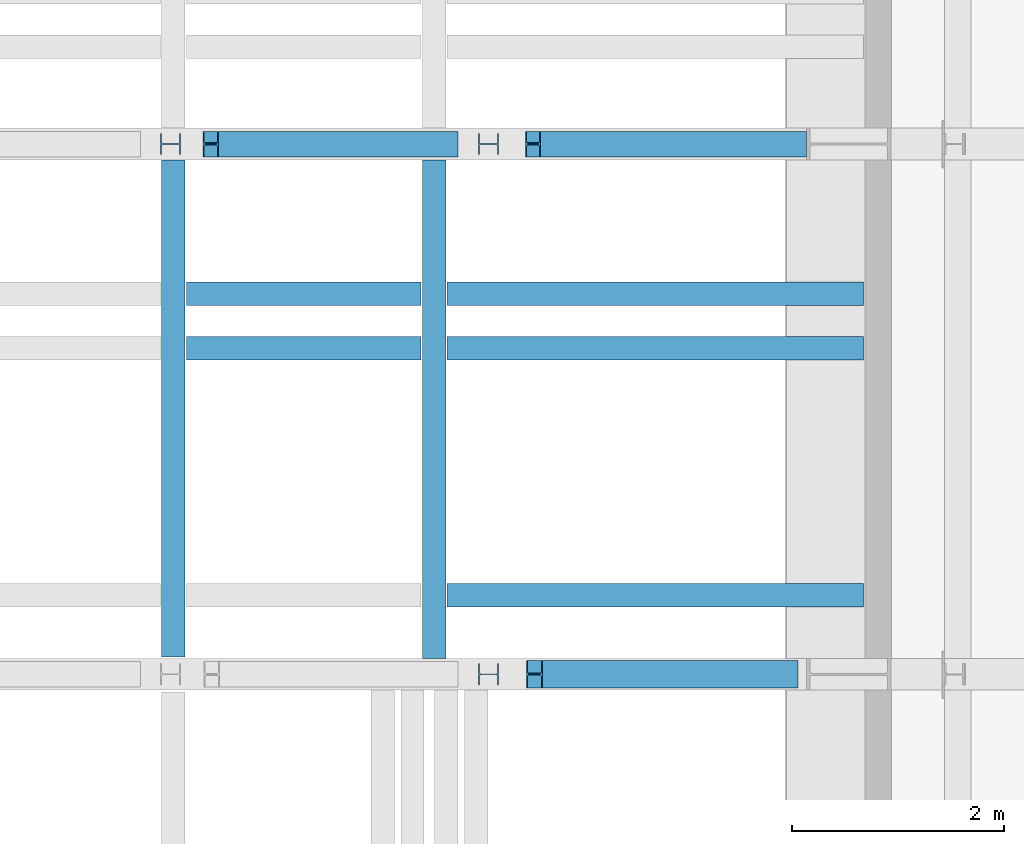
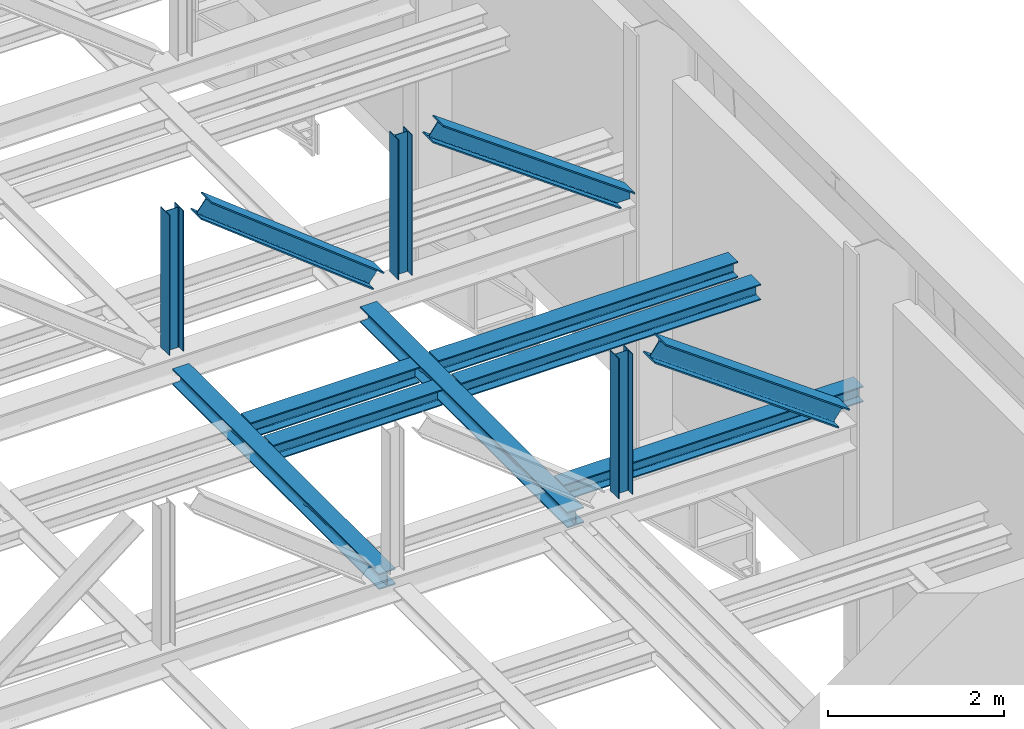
# One storey, part 13 of 29: 13 beams.
"""IFC2X3 building model written with IfcOpenShell, lengths in millimetres."""

import ifcopenshell
import ifcopenshell.guid

model = None  # the IFC model being written
_history = None  # IfcOwnerHistory: only IFC2X3 demands one
_inside = {}  # id of a spatial element -> (the spatial element, [elements in it])
_under = {}  # id of a project, library or spatial element -> (it, [spatial elements below it])
_declared = {}  # id of a project -> (the project, [libraries it declares])
_typed = {}  # id of a type object -> (the type object, [elements of that type])
_made_of = {}  # id of a material, layer set ... -> (it, [elements and type objects made of it])


def new_model(schema):
    """Start an empty IFC model of exactly this schema.

    Asked for "IFC4X3", IfcOpenShell would pick the latest addendum, in which some entities
    have other attributes; the version numbers below select the first issue.
    IFC2X3 requires an IfcOwnerHistory on every rooted entity: one is made here for all.
    """
    global model, _history
    if schema == "IFC4X3":
        model = ifcopenshell.file(schema_version=(4, 3, 0, 0))
    else:
        model = ifcopenshell.file(schema=schema)
    _inside.clear()
    _under.clear()
    _declared.clear()
    _typed.clear()
    _made_of.clear()
    _history = None
    if model.schema == "IFC2X3":
        org = make("IfcOrganization", Name="unknown")
        user = make(
            "IfcPersonAndOrganization",
            ThePerson=make("IfcPerson", FamilyName="unknown"),
            TheOrganization=org,
        )
        app = make(
            "IfcApplication",
            ApplicationDeveloper=org,
            Version="unknown",
            ApplicationFullName="unknown",
            ApplicationIdentifier="unknown",
        )
        _history = make(
            "IfcOwnerHistory",
            OwningUser=user,
            OwningApplication=app,
            ChangeAction="ADDED",
            CreationDate=0,
        )
    return model


def make(cls, **values):
    """One entity of the class cls with the attributes given. An attribute that is None is left unset."""
    return model.create_entity(
        cls, **{name: value for name, value in values.items() if value is not None}
    )


def entity(cls, *values):
    """Any entity or typed value of the class cls, its attributes in the order of the schema. None: left unset."""
    e = model.create_entity(cls)
    for i, value in enumerate(values):
        if value is not None:
            e[i] = value
    return e


def rooted(cls, **values):
    """An entity with a GlobalId (a new one), such as an element, a storey or a relation."""
    return make(cls, GlobalId=ifcopenshell.guid.new(), OwnerHistory=_history, **values)


def si_unit(unit_type, name, prefix=None):
    """IfcSIUnit, for example si_unit("LENGTHUNIT", "METRE", prefix="MILLI")."""
    return make("IfcSIUnit", UnitType=unit_type, Prefix=prefix, Name=name)


def converted_unit(unit_type, name, factor, base, dimensions=None, offset=None):
    """IfcConversionBasedUnit, such as the inch: factor (a typed value) times the base unit."""
    return make(
        "IfcConversionBasedUnit"
        if offset is None
        else "IfcConversionBasedUnitWithOffset",
        ConversionOffset=offset,
        Dimensions=None
        if dimensions is None
        else entity("IfcDimensionalExponents", *dimensions),
        UnitType=unit_type,
        Name=name,
        ConversionFactor=make(
            "IfcMeasureWithUnit", ValueComponent=factor, UnitComponent=base
        ),
    )


def derived_unit(unit_type, elements):
    """IfcDerivedUnit: a product of units, each with its exponent."""
    return make(
        "IfcDerivedUnit",
        Elements=[
            make("IfcDerivedUnitElement", Unit=unit, Exponent=power)
            for unit, power in elements
        ],
        UnitType=unit_type,
    )


def assignment(units):
    """IfcUnitAssignment: the units of a project."""
    return None if units is None else make("IfcUnitAssignment", Units=units)


def point(xyz):
    """IfcCartesianPoint."""
    return None if xyz is None else make("IfcCartesianPoint", Coordinates=xyz)


def direction(xyz):
    """IfcDirection."""
    return None if xyz is None else make("IfcDirection", DirectionRatios=xyz)


def frame(location, z_axis=None, x_axis=None):
    """IfcAxis2Placement3D, a coordinate frame: its origin and axes. An axis left out is left unset."""
    return make(
        "IfcAxis2Placement3D",
        Location=point(location),
        Axis=direction(z_axis),
        RefDirection=direction(x_axis),
    )


def frame_2d(location, x_axis=None):
    """IfcAxis2Placement2D, a coordinate frame in the plane: its origin and x axis."""
    return make(
        "IfcAxis2Placement2D", Location=point(location), RefDirection=direction(x_axis)
    )


def origin():
    """The frame at (0, 0, 0) with its axes left unset."""
    return frame((0.0, 0.0, 0.0))


def place(relative_to, where):
    """IfcLocalPlacement: puts the frame where relative to a parent placement (None: the world)."""
    return make(
        "IfcLocalPlacement", PlacementRelTo=relative_to, RelativePlacement=where
    )


def context(
    kind, dimensions, precision=None, world=None, true_north=None, identifier=None
):
    """IfcGeometricRepresentationContext, for example the 3D "Model" context."""
    return make(
        "IfcGeometricRepresentationContext",
        ContextIdentifier=identifier,
        ContextType=kind,
        CoordinateSpaceDimension=dimensions,
        Precision=precision,
        WorldCoordinateSystem=world,
        TrueNorth=true_north,
    )


def subcontext(parent, identifier, kind, view, scale=None):
    """IfcGeometricRepresentationSubContext, for example "Body" below "Model"."""
    return make(
        "IfcGeometricRepresentationSubContext",
        ContextIdentifier=identifier,
        ContextType=kind,
        ParentContext=parent,
        TargetScale=scale,
        TargetView=view,
    )


def project(units=None, contexts=None):
    """IfcProject with its units and contexts."""
    return rooted(
        "IfcProject",
        Name="project",
        RepresentationContexts=contexts,
        UnitsInContext=assignment(units),
    )


def spatial(cls, under=None, at=None, **own):
    """A site, building, storey or space (cls), placed at a placement, below another one or the project."""
    s = rooted(cls, ObjectPlacement=at, **own)
    if under is not None:
        _under.setdefault(under.id(), (under, []))[1].append(s)
    return s


def polyline(points):
    """IfcPolyline through the points."""
    return make("IfcPolyline", Points=[point(p) for p in points])


def circle_curve(where, radius):
    """IfcCircle in the frame where."""
    return make("IfcCircle", Position=where, Radius=radius)


def parameter(value):
    """IfcParameterValue: where a trimmed curve begins or ends, as a parameter of its basis curve."""
    return model.create_entity("IfcParameterValue", value)


def trimmed(basis, trim1, trim2, sense, master):
    """IfcTrimmedCurve: the piece of a basis curve between two trims."""
    return make(
        "IfcTrimmedCurve",
        BasisCurve=basis,
        Trim1=trim1,
        Trim2=trim2,
        SenseAgreement=sense,
        MasterRepresentation=master,
    )


def segment(curve, same_sense, transition):
    """IfcCompositeCurveSegment."""
    return make(
        "IfcCompositeCurveSegment",
        Transition=transition,
        SameSense=same_sense,
        ParentCurve=curve,
    )


def composite_curve(segments, self_intersect=None):
    """IfcCompositeCurve: segments joined end to end."""
    return make("IfcCompositeCurve", Segments=segments, SelfIntersect=self_intersect)


def profile(cls, at=None, kind="AREA", **sizes):
    """A parametric profile (cls). Its sizes go by their IFC names, for example OverallWidth=200.0."""
    return make(cls, ProfileType=kind, Position=at, **sizes)


def i_section(**sizes):
    """IfcIShapeProfileDef."""
    return profile("IfcIShapeProfileDef", **sizes)


def outline(outer, holes=None, kind="AREA"):
    """IfcArbitraryClosedProfileDef: a profile drawn as a closed curve; with holes, ...WithVoids."""
    if holes is None:
        return make("IfcArbitraryClosedProfileDef", ProfileType=kind, OuterCurve=outer)
    return make(
        "IfcArbitraryProfileDefWithVoids",
        ProfileType=kind,
        OuterCurve=outer,
        InnerCurves=holes,
    )


def extrude(swept, where, along, depth):
    """IfcExtrudedAreaSolid: the profile swept, set in the frame where, extruded along a direction by depth."""
    return make(
        "IfcExtrudedAreaSolid",
        SweptArea=swept,
        Position=where,
        ExtrudedDirection=direction(along),
        Depth=depth,
    )


def clip(a, b, op="DIFFERENCE"):
    """IfcBooleanClippingResult: the solid a cut by the half space b."""
    return make(
        "IfcBooleanClippingResult", Operator=op, FirstOperand=a, SecondOperand=b
    )


def bounded_halfspace(plane, agree, where, boundary):
    """IfcPolygonalBoundedHalfSpace: a half space limited to a polygon's prism."""
    return make(
        "IfcPolygonalBoundedHalfSpace",
        BaseSurface=make("IfcPlane", Position=plane),
        AgreementFlag=agree,
        Position=where,
        PolygonalBoundary=boundary,
    )


def shape(context_of_items, identifier, shape_type, items):
    """IfcShapeRepresentation: the items that make up one representation, for example the "Body"."""
    return make(
        "IfcShapeRepresentation",
        ContextOfItems=context_of_items,
        RepresentationIdentifier=identifier,
        RepresentationType=shape_type,
        Items=items,
    )


def material(Name=None, Category=None):
    """IfcMaterial."""
    return make("IfcMaterial", Name=Name, Category=Category)


def made_of(thing, what):
    """Note that an element or type object is made of a material, layer set ...; save() writes the relation."""
    if what is not None:
        _made_of.setdefault(what.id(), (what, []))[1].append(thing)
    return thing


def type_object(cls, material=None, **own):
    """A type object (cls), such as IfcWallType, which elements share."""
    return made_of(rooted(cls, **own), material)


def element(
    cls,
    number,
    at=None,
    inside=None,
    cuts=None,
    type_object=None,
    material=None,
    context=None,
    identifier="Body",
    shape_type=None,
    held_by="IfcProductDefinitionShape",
    body=None,
    shapes=None,
    **own,
):
    """One element of the class cls, such as IfcWall. Its Tag is "e" and its number.

    at: its placement. inside: the storey or other place that contains it. cuts: it is an
    opening in that element (IfcRelVoidsElement). A single representation is given by context,
    identifier, shape_type and body (its items); several are given by shapes. held_by: the class
    of the entity that holds the representations. save() writes the other relations.
    """
    e = rooted(cls, Tag="e%d" % number, ObjectPlacement=at, **own)
    if body is not None:
        shapes = [shape(context, identifier, shape_type, body)]
    if shapes is not None:
        e.Representation = make(held_by, Representations=shapes)
    if inside is not None:
        _inside.setdefault(inside.id(), (inside, []))[1].append(e)
    if cuts is not None:
        rooted(
            "IfcRelVoidsElement", RelatingBuildingElement=cuts, RelatedOpeningElement=e
        )
    if type_object is not None:
        _typed.setdefault(type_object.id(), (type_object, []))[1].append(e)
    return made_of(e, material)


def aggregate(whole, parts):
    """IfcRelAggregates: a whole, such as a stair, and the parts it consists of."""
    return rooted("IfcRelAggregates", RelatingObject=whole, RelatedObjects=parts)


def save(model, path):
    """Write the relations noted so far, then the file.

    IfcRelAggregates (storeys below a building ...), IfcRelContainedInSpatialStructure (elements
    in a storey), IfcRelDefinesByType, IfcRelAssociatesMaterial and IfcRelDeclares: one each for
    every whole, place, type object, material and project.
    """
    for whole, parts in _under.values():
        aggregate(whole, parts)
    for where, things in _inside.values():
        rooted(
            "IfcRelContainedInSpatialStructure",
            RelatedElements=things,
            RelatingStructure=where,
        )
    for kind, things in _typed.values():
        rooted("IfcRelDefinesByType", RelatedObjects=things, RelatingType=kind)
    for what, things in _made_of.values():
        rooted("IfcRelAssociatesMaterial", RelatedObjects=things, RelatingMaterial=what)
    for by, libraries in _declared.values():
        rooted("IfcRelDeclares", RelatingContext=by, RelatedDefinitions=libraries)
    model.write(path)


model = new_model("IFC2X3")

# Units and contexts
model_context = context("Model", 3, precision=0.01, world=origin(), true_north=direction((6.12303176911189e-17, 1.0)))
body_context = subcontext(model_context, "Body", "Model", "MODEL_VIEW")
ifc_project = project(units=[si_unit("LENGTHUNIT", "METRE", prefix="MILLI"), si_unit("AREAUNIT", "SQUARE_METRE", prefix="MILLI"), si_unit("VOLUMEUNIT", "CUBIC_METRE"), converted_unit("PLANEANGLEUNIT", "DEGREE", entity("IfcRatioMeasure", 0.0174532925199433), si_unit("PLANEANGLEUNIT", "RADIAN"), dimensions=[0, 0, 0, 0, 0, 0, 0]), si_unit("MASSUNIT", "GRAM", prefix="KILO"), derived_unit("MASSDENSITYUNIT", [(si_unit("MASSUNIT", "GRAM", prefix="KILO"), 1), (si_unit("LENGTHUNIT", "METRE"), -3)]), derived_unit("MOMENTOFINERTIAUNIT", [(si_unit("LENGTHUNIT", "METRE"), 4)]), si_unit("TIMEUNIT", "SECOND"), si_unit("FREQUENCYUNIT", "HERTZ"), si_unit("THERMODYNAMICTEMPERATUREUNIT", "DEGREE_CELSIUS"), derived_unit("THERMALTRANSMITTANCEUNIT", [(si_unit("MASSUNIT", "GRAM", prefix="KILO"), 1), (si_unit("THERMODYNAMICTEMPERATUREUNIT", "KELVIN"), -1), (si_unit("TIMEUNIT", "SECOND"), -3)]), derived_unit("VOLUMETRICFLOWRATEUNIT", [(si_unit("LENGTHUNIT", "METRE"), 3), (si_unit("TIMEUNIT", "SECOND"), -1)]), si_unit("ELECTRICCURRENTUNIT", "AMPERE"), si_unit("ELECTRICVOLTAGEUNIT", "VOLT"), si_unit("POWERUNIT", "WATT"), si_unit("FORCEUNIT", "NEWTON", prefix="KILO"), si_unit("ILLUMINANCEUNIT", "LUX"), si_unit("LUMINOUSFLUXUNIT", "LUMEN"), si_unit("LUMINOUSINTENSITYUNIT", "CANDELA"), derived_unit("USERDEFINED", [(si_unit("MASSUNIT", "GRAM", prefix="KILO"), -1), (si_unit("LENGTHUNIT", "METRE"), -2), (si_unit("TIMEUNIT", "SECOND"), 3), (si_unit("LUMINOUSFLUXUNIT", "LUMEN"), 1)]), derived_unit("LINEARVELOCITYUNIT", [(si_unit("LENGTHUNIT", "METRE"), 1), (si_unit("TIMEUNIT", "SECOND"), -1)]), si_unit("PRESSUREUNIT", "PASCAL"), derived_unit("USERDEFINED", [(si_unit("LENGTHUNIT", "METRE"), -2), (si_unit("MASSUNIT", "GRAM", prefix="KILO"), 1), (si_unit("TIMEUNIT", "SECOND"), -2)]), derived_unit("LINEARFORCEUNIT", [(si_unit("MASSUNIT", "GRAM", prefix="KILO"), 1), (si_unit("LENGTHUNIT", "METRE"), 1), (si_unit("TIMEUNIT", "SECOND"), -2), (si_unit("LENGTHUNIT", "METRE"), -1)]), derived_unit("PLANARFORCEUNIT", [(si_unit("MASSUNIT", "GRAM", prefix="KILO"), 1), (si_unit("LENGTHUNIT", "METRE"), 1), (si_unit("TIMEUNIT", "SECOND"), -2), (si_unit("LENGTHUNIT", "METRE"), -2)])], contexts=[model_context])

# Site, building, storey
site_placement = place(None, origin())
site = spatial("IfcSite", under=ifc_project, at=site_placement, Name="Theater aan de Parade", CompositionType="ELEMENT")
building_placement = place(site_placement, origin())
building = spatial("IfcBuilding", under=site, at=building_placement, Name="Theater aan de Parade", CompositionType="ELEMENT")
storey_placement = place(building_placement, frame((0.0, 0.0, 20300.0)))
storey = spatial("IfcBuildingStorey", under=building, at=storey_placement, Name="05 vijfde verdieping", CompositionType="ELEMENT", Elevation=20300.0)

# Beams
ifc_material = material(Name="00_PBT_MAT_staal_S355")
beam_type_1 = type_object("IfcBeamType", Name="28_PBT_SF_staal_H-profiel:S355_HE220B", PredefinedType="NOTDEFINED")
beam_1_placement = place(storey_placement, frame((79535.461881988, 29760.0, 0.0), z_axis=(0.0, 0.0, 1.0), x_axis=(0.0, -1.0, 0.0)))
element("IfcBeam", 1, at=beam_1_placement, inside=storey, type_object=beam_type_1, material=ifc_material, Name="28_PBT_SF_staal_H-profiel:S355_HE220B", ObjectType="28_PBT_SF_staal_H-profiel:S355_HE220B", context=body_context, shape_type="SweptSolid", body=[
    extrude(i_section(OverallWidth=220.000000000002, OverallDepth=220.000000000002, WebThickness=9.49999999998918, FlangeThickness=15.9999999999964, FilletRadius=17.9999999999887, at=frame_2d((-4.33431068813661e-12, 8.66862137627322e-12), x_axis=(0.0, 1.0))), frame((0.0, 0.0, 2360.0), z_axis=(1.0, 0.0, 0.0), x_axis=(0.0, 0.0, -1.0)), (0.0, 0.0, 1.0), 4685.0000000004),
])
beam_2_placement = place(storey_placement, frame((81995.0, 29760.0, 0.0), z_axis=(0.0, 0.0, 1.0), x_axis=(0.0, -1.0, 0.0)))
element("IfcBeam", 2, at=beam_2_placement, inside=storey, type_object=beam_type_1, material=ifc_material, Name="28_PBT_SF_staal_H-profiel:S355_HE220B", ObjectType="28_PBT_SF_staal_H-profiel:S355_HE220B", context=body_context, shape_type="SweptSolid", body=[
    extrude(i_section(OverallWidth=220.000000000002, OverallDepth=220.000000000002, WebThickness=9.49999999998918, FlangeThickness=15.9999999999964, FilletRadius=17.9999999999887, at=frame_2d((-4.33431068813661e-12, -2.59916532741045e-11), x_axis=(0.0, 1.0))), frame((0.0, 0.0, 2360.0), z_axis=(1.0, 0.0, 0.0), x_axis=(0.0, 0.0, -1.0)), (0.0, 0.0, 1.0), 4700.00000000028),
])
beam_3_placement = place(storey_placement, frame((81995.0, 28497.5, 0.0), z_axis=(0.0, 0.0, 1.0), x_axis=(-1.0, 0.0, 0.0)))
element("IfcBeam", 3, at=beam_3_placement, inside=storey, type_object=beam_type_1, material=ifc_material, Name="28_PBT_SF_staal_H-profiel:S355_HE220B", ObjectType="28_PBT_SF_staal_H-profiel:S355_HE220B", context=body_context, shape_type="SweptSolid", body=[
    extrude(outline(composite_curve([segment(polyline([(94.0, -110.0), (110.0, -110.0)]), True, "CONTINUOUS"), segment(polyline([(110.0, -110.0), (110.0, 110.0)]), True, "CONTINUOUS"), segment(polyline([(110.0, 110.0), (94.0, 110.0)]), True, "CONTINUOUS"), segment(polyline([(94.0, 110.0), (94.0, 22.7500000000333)]), True, "CONTINUOUS"), segment(trimmed(circle_curve(frame_2d((76.0, 22.7500000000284), x_axis=(1.0, 0.0)), 18.0000000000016), [parameter(270.0)], [parameter(0.0)], True, "PARAMETER"), False, "CONTINUOUS"), segment(polyline([(76.0, 4.75000000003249), (-76.0, 4.74999999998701)]), True, "CONTINUOUS"), segment(trimmed(circle_curve(frame_2d((-76.0, 22.7499999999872), x_axis=(0.0, -1.0)), 18.0000000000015), [parameter(270.0)], [parameter(0.0)], True, "PARAMETER"), False, "CONTINUOUS"), segment(polyline([(-94.0, 22.7499999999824), (-94.0, 110.0)]), True, "CONTINUOUS"), segment(polyline([(-94.0, 110.0), (-110.0, 110.0)]), True, "CONTINUOUS"), segment(polyline([(-110.0, 110.0), (-110.0, -110.0)]), True, "CONTINUOUS"), segment(polyline([(-110.0, -110.0), (-94.0, -110.0)]), True, "CONTINUOUS"), segment(polyline([(-94.0, -110.0), (-94.0, -22.7500000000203)]), True, "CONTINUOUS"), segment(trimmed(circle_curve(frame_2d((-76.0, -22.7500000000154), x_axis=(-1.0, 0.0)), 17.9999999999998), [parameter(270.0)], [parameter(0.0)], True, "PARAMETER"), False, "CONTINUOUS"), segment(polyline([(-76.0, -4.75000000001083), (76.0, -4.74999999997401)]), True, "CONTINUOUS"), segment(trimmed(circle_curve(frame_2d((76.0, -22.7499999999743), x_axis=(0.0, 1.0)), 18.0000000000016), [parameter(270.0)], [parameter(0.0)], True, "PARAMETER"), False, "CONTINUOUS"), segment(polyline([(94.0, -22.749999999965), (94.0, -110.0)]), True, "CONTINUOUS")], self_intersect=False)), frame((122.699999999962, 0.0, 2360.0), z_axis=(1.0, 0.0, 0.0), x_axis=(0.0, 0.0, -1.0)), (0.0, 0.0, 1.0), 2214.13811801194),
])
beam_4_placement = place(storey_placement, frame((86180.0, 28497.5, 0.0), z_axis=(0.0, 0.0, 1.0), x_axis=(-1.0, 0.0, 0.0)))
element("IfcBeam", 4, at=beam_4_placement, inside=storey, type_object=beam_type_1, material=ifc_material, Name="28_PBT_SF_staal_H-profiel:S355_HE220B", ObjectType="28_PBT_SF_staal_H-profiel:S355_HE220B", context=body_context, shape_type="SweptSolid", body=[
    extrude(outline(composite_curve([segment(polyline([(94.0, -110.0), (110.0, -110.0)]), True, "CONTINUOUS"), segment(polyline([(110.0, -110.0), (110.0, 110.0)]), True, "CONTINUOUS"), segment(polyline([(110.0, 110.0), (94.0, 110.0)]), True, "CONTINUOUS"), segment(polyline([(94.0, 110.0), (94.0, 22.7500000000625)]), True, "CONTINUOUS"), segment(trimmed(circle_curve(frame_2d((76.0, 22.7500000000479), x_axis=(1.0, 0.0)), 18.0000000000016), [parameter(270.0)], [parameter(0.0)], True, "PARAMETER"), False, "CONTINUOUS"), segment(polyline([(76.0, 4.75000000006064), (-76.0, 4.7499999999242)]), True, "CONTINUOUS"), segment(trimmed(circle_curve(frame_2d((-76.0, 22.7499999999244), x_axis=(0.0, -1.0)), 18.0000000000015), [parameter(270.0)], [parameter(0.0)], True, "PARAMETER"), False, "CONTINUOUS"), segment(polyline([(-94.0, 22.7499999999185), (-94.0, 110.0)]), True, "CONTINUOUS"), segment(polyline([(-94.0, 110.0), (-110.0, 110.0)]), True, "CONTINUOUS"), segment(polyline([(-110.0, 110.0), (-110.0, -110.0)]), True, "CONTINUOUS"), segment(polyline([(-110.0, -110.0), (-94.0, -110.0)]), True, "CONTINUOUS"), segment(polyline([(-94.0, -110.0), (-94.0, -22.7500000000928)]), True, "CONTINUOUS"), segment(trimmed(circle_curve(frame_2d((-76.0, -22.7500000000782), x_axis=(-1.0, 0.0)), 17.9999999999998), [parameter(270.0)], [parameter(0.0)], True, "PARAMETER"), False, "CONTINUOUS"), segment(polyline([(-76.0, -4.75000000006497), (76.0, -4.74999999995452)]), True, "CONTINUOUS"), segment(trimmed(circle_curve(frame_2d((76.0, -22.7499999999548), x_axis=(0.0, 1.0)), 18.0000000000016), [parameter(270.0)], [parameter(0.0)], True, "PARAMETER"), False, "CONTINUOUS"), segment(polyline([(94.0, -22.7499999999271), (94.0, -110.0)]), True, "CONTINUOUS")], self_intersect=False)), frame((137.699999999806, 0.0, 2360.0), z_axis=(1.0, 0.0, 0.0), x_axis=(0.0, 0.0, -1.0)), (0.0, 0.0, 1.0), 3924.60000000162),
])
beam_5_placement = place(storey_placement, frame((81995.0, 27983.4998, 0.0), z_axis=(0.0, 0.0, 1.0), x_axis=(-1.0, 0.0, 0.0)))
element("IfcBeam", 5, at=beam_5_placement, inside=storey, type_object=beam_type_1, material=ifc_material, Name="28_PBT_SF_staal_H-profiel:S355_HE220B", ObjectType="28_PBT_SF_staal_H-profiel:S355_HE220B", context=body_context, shape_type="SweptSolid", body=[
    extrude(outline(composite_curve([segment(polyline([(94.0, -110.0), (110.0, -110.0)]), True, "CONTINUOUS"), segment(polyline([(110.0, -110.0), (110.0, 110.0)]), True, "CONTINUOUS"), segment(polyline([(110.0, 110.0), (94.0, 110.0)]), True, "CONTINUOUS"), segment(polyline([(94.0, 110.0), (94.0, 22.7500000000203)]), True, "CONTINUOUS"), segment(trimmed(circle_curve(frame_2d((76.0, 22.7500000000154), x_axis=(1.0, 0.0)), 18.0000000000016), [parameter(270.0)], [parameter(0.0)], True, "PARAMETER"), False, "CONTINUOUS"), segment(polyline([(76.0, 4.75000000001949), (-76.0, 4.74999999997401)]), True, "CONTINUOUS"), segment(trimmed(circle_curve(frame_2d((-76.0, 22.7499999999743), x_axis=(0.0, -1.0)), 18.0000000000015), [parameter(270.0)], [parameter(0.0)], True, "PARAMETER"), False, "CONTINUOUS"), segment(polyline([(-94.0, 22.7499999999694), (-94.0, 110.0)]), True, "CONTINUOUS"), segment(polyline([(-94.0, 110.0), (-110.0, 110.0)]), True, "CONTINUOUS"), segment(polyline([(-110.0, 110.0), (-110.0, -110.0)]), True, "CONTINUOUS"), segment(polyline([(-110.0, -110.0), (-94.0, -110.0)]), True, "CONTINUOUS"), segment(polyline([(-94.0, -110.0), (-94.0, -22.7500000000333)]), True, "CONTINUOUS"), segment(trimmed(circle_curve(frame_2d((-76.0, -22.7500000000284), x_axis=(-1.0, 0.0)), 17.9999999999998), [parameter(270.0)], [parameter(0.0)], True, "PARAMETER"), False, "CONTINUOUS"), segment(polyline([(-76.0, -4.75000000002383), (76.0, -4.74999999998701)]), True, "CONTINUOUS"), segment(trimmed(circle_curve(frame_2d((76.0, -22.7499999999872), x_axis=(0.0, 1.0)), 18.0000000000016), [parameter(270.0)], [parameter(0.0)], True, "PARAMETER"), False, "CONTINUOUS"), segment(polyline([(94.0, -22.749999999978), (94.0, -110.0)]), True, "CONTINUOUS")], self_intersect=False)), frame((122.699999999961, 0.0, 2360.0), z_axis=(1.0, 0.0, 0.0), x_axis=(0.0, 0.0, -1.0)), (0.0, 0.0, 1.0), 2214.13811801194),
])
beam_6_placement = place(storey_placement, frame((86180.0, 27983.4998, 0.0), z_axis=(0.0, 0.0, 1.0), x_axis=(-1.0, 0.0, 0.0)))
element("IfcBeam", 6, at=beam_6_placement, inside=storey, type_object=beam_type_1, material=ifc_material, Name="28_PBT_SF_staal_H-profiel:S355_HE220B", ObjectType="28_PBT_SF_staal_H-profiel:S355_HE220B", context=body_context, shape_type="SweptSolid", body=[
    extrude(outline(composite_curve([segment(polyline([(94.0, -110.0), (110.0, -110.0)]), True, "CONTINUOUS"), segment(polyline([(110.0, -110.0), (110.0, 110.0)]), True, "CONTINUOUS"), segment(polyline([(110.0, 110.0), (94.0, 110.0)]), True, "CONTINUOUS"), segment(polyline([(94.0, 110.0), (94.0, 22.7500000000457)]), True, "CONTINUOUS"), segment(trimmed(circle_curve(frame_2d((76.0, 22.750000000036), x_axis=(1.0, 0.0)), 18.0000000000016), [parameter(270.0)], [parameter(0.0)], True, "PARAMETER"), False, "CONTINUOUS"), segment(polyline([(76.0, 4.7500000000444), (-76.0, 4.74999999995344)]), True, "CONTINUOUS"), segment(trimmed(circle_curve(frame_2d((-76.0, 22.7499999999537), x_axis=(0.0, -1.0)), 18.0000000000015), [parameter(270.0)], [parameter(0.0)], True, "PARAMETER"), False, "CONTINUOUS"), segment(polyline([(-94.0, 22.7499999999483), (-94.0, 110.0)]), True, "CONTINUOUS"), segment(polyline([(-94.0, 110.0), (-110.0, 110.0)]), True, "CONTINUOUS"), segment(polyline([(-110.0, 110.0), (-110.0, -110.0)]), True, "CONTINUOUS"), segment(polyline([(-110.0, -110.0), (-94.0, -110.0)]), True, "CONTINUOUS"), segment(polyline([(-94.0, -110.0), (-94.0, -22.7500000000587)]), True, "CONTINUOUS"), segment(trimmed(circle_curve(frame_2d((-76.0, -22.750000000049), x_axis=(-1.0, 0.0)), 17.9999999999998), [parameter(270.0)], [parameter(0.0)], True, "PARAMETER"), False, "CONTINUOUS"), segment(polyline([(-76.0, -4.75000000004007), (76.0, -4.74999999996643)]), True, "CONTINUOUS"), segment(trimmed(circle_curve(frame_2d((76.0, -22.7499999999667), x_axis=(0.0, 1.0)), 18.0000000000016), [parameter(270.0)], [parameter(0.0)], True, "PARAMETER"), False, "CONTINUOUS"), segment(polyline([(94.0, -22.7499999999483), (94.0, -110.0)]), True, "CONTINUOUS")], self_intersect=False)), frame((137.699999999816, 0.0, 2360.0), z_axis=(1.0, 0.0, 0.0), x_axis=(0.0, 0.0, -1.0)), (0.0, 0.0, 1.0), 3924.60000000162),
])
beam_7_placement = place(storey_placement, frame((86180.0, 25654.5, 0.0), z_axis=(0.0, 0.0, 1.0), x_axis=(-1.0, 0.0, 0.0)))
element("IfcBeam", 7, at=beam_7_placement, inside=storey, type_object=beam_type_1, material=ifc_material, Name="28_PBT_SF_staal_H-profiel:S355_HE220B", ObjectType="28_PBT_SF_staal_H-profiel:S355_HE220B", context=body_context, shape_type="SweptSolid", body=[
    extrude(outline(composite_curve([segment(polyline([(94.0, -110.0), (110.0, -110.0)]), True, "CONTINUOUS"), segment(polyline([(110.0, -110.0), (110.0, 110.0)]), True, "CONTINUOUS"), segment(polyline([(110.0, 110.0), (94.0, 110.0)]), True, "CONTINUOUS"), segment(polyline([(94.0, 110.0), (94.0, 22.7500000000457)]), True, "CONTINUOUS"), segment(trimmed(circle_curve(frame_2d((76.0, 22.750000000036), x_axis=(1.0, 0.0)), 18.0000000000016), [parameter(270.0)], [parameter(0.0)], True, "PARAMETER"), False, "CONTINUOUS"), segment(polyline([(76.0, 4.7500000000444), (-76.0, 4.74999999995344)]), True, "CONTINUOUS"), segment(trimmed(circle_curve(frame_2d((-76.0, 22.7499999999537), x_axis=(0.0, -1.0)), 18.0000000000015), [parameter(270.0)], [parameter(0.0)], True, "PARAMETER"), False, "CONTINUOUS"), segment(polyline([(-94.0, 22.7499999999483), (-94.0, 110.0)]), True, "CONTINUOUS"), segment(polyline([(-94.0, 110.0), (-110.0, 110.0)]), True, "CONTINUOUS"), segment(polyline([(-110.0, 110.0), (-110.0, -110.0)]), True, "CONTINUOUS"), segment(polyline([(-110.0, -110.0), (-94.0, -110.0)]), True, "CONTINUOUS"), segment(polyline([(-94.0, -110.0), (-94.0, -22.7500000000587)]), True, "CONTINUOUS"), segment(trimmed(circle_curve(frame_2d((-76.0, -22.750000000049), x_axis=(-1.0, 0.0)), 17.9999999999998), [parameter(270.0)], [parameter(0.0)], True, "PARAMETER"), False, "CONTINUOUS"), segment(polyline([(-76.0, -4.75000000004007), (76.0, -4.74999999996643)]), True, "CONTINUOUS"), segment(trimmed(circle_curve(frame_2d((76.0, -22.7499999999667), x_axis=(0.0, 1.0)), 18.0000000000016), [parameter(270.0)], [parameter(0.0)], True, "PARAMETER"), False, "CONTINUOUS"), segment(polyline([(94.0, -22.7499999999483), (94.0, -110.0)]), True, "CONTINUOUS")], self_intersect=False)), frame((137.699999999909, 0.0, 2360.0), z_axis=(1.0, 0.0, 0.0), x_axis=(0.0, 0.0, -1.0)), (0.0, 0.0, 1.0), 3924.60000000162),
])
beam_type_2 = type_object("IfcBeamType", Name="28_PBT_SF_staal_H-profiel:S355_HE200A", PredefinedType="NOTDEFINED")
beam_8_placement = place(storey_placement, frame((79509.7098483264, 29910.0, 2430.0), z_axis=(1.0, 0.0, 0.0), x_axis=(0.0, 0.0, 1.0)))
element("IfcBeam", 8, at=beam_8_placement, inside=storey, type_object=beam_type_2, material=ifc_material, Name="28_PBT_SF_staal_H-profiel:S355_HE200A", ObjectType="28_PBT_SF_staal_H-profiel:S355_HE200A", context=body_context, shape_type="SweptSolid", body=[
    extrude(i_section(OverallWidth=199.999999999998, OverallDepth=189.999999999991, WebThickness=6.50000000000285, FlangeThickness=9.99999999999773, FilletRadius=17.9999999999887, at=frame_2d((0.0, 6.50146603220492e-12), x_axis=(0.0, 1.0))), frame((192.7, 0.0, 0.0), z_axis=(1.0, 0.0, 0.0), x_axis=(0.0, 0.0, -1.0)), (0.0, 0.0, 1.0), 1942.6),
])
beam_9_placement = place(storey_placement, frame((82507.137310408, 29910.0, 2430.0), z_axis=(1.0, 0.0, 0.0), x_axis=(0.0, 0.0, 1.0)))
element("IfcBeam", 9, at=beam_9_placement, inside=storey, type_object=beam_type_2, material=ifc_material, Name="28_PBT_SF_staal_H-profiel:S355_HE200A", ObjectType="28_PBT_SF_staal_H-profiel:S355_HE200A", context=body_context, shape_type="SweptSolid", body=[
    extrude(i_section(OverallWidth=199.999999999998, OverallDepth=189.999999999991, WebThickness=6.50000000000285, FlangeThickness=9.99999999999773, FilletRadius=17.9999999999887, at=frame_2d((0.0, -6.50146603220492e-12), x_axis=(0.0, 1.0))), frame((192.7, 0.0, 0.0), z_axis=(1.0, 0.0, 0.0), x_axis=(0.0, 0.0, -1.0)), (0.0, 0.0, 1.0), 1942.6),
])
beam_10_placement = place(storey_placement, frame((82507.137310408, 24910.0, 2429.0), z_axis=(1.0, 0.0, 0.0), x_axis=(0.0, 0.0, 1.0)))
element("IfcBeam", 10, at=beam_10_placement, inside=storey, type_object=beam_type_2, material=ifc_material, Name="28_PBT_SF_staal_H-profiel:S355_HE200A", ObjectType="28_PBT_SF_staal_H-profiel:S355_HE200A", context=body_context, shape_type="SweptSolid", body=[
    extrude(outline(composite_curve([segment(polyline([(85.0, -100.0), (95.0, -100.0)]), True, "CONTINUOUS"), segment(polyline([(95.0, -100.0), (95.0, 100.0)]), True, "CONTINUOUS"), segment(polyline([(95.0, 100.0), (85.0, 100.0)]), True, "CONTINUOUS"), segment(polyline([(85.0, 100.0), (85.0, 21.2500000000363)]), True, "CONTINUOUS"), segment(trimmed(circle_curve(frame_2d((67.0, 21.2500000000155), x_axis=(1.0, 0.0)), 17.9999999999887), [parameter(269.999999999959)], [parameter(0.0)], True, "PARAMETER"), False, "CONTINUOUS"), segment(polyline([(67.0, 3.25000000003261), (-67.0, 3.24999999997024)]), True, "CONTINUOUS"), segment(trimmed(circle_curve(frame_2d((-67.0, 21.2499999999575), x_axis=(0.0, -1.0)), 17.9999999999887), [parameter(269.999999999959)], [parameter(0.0)], True, "PARAMETER"), False, "CONTINUOUS"), segment(polyline([(-85.0, 21.249999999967), (-85.0, 100.0)]), True, "CONTINUOUS"), segment(polyline([(-85.0, 100.0), (-95.0, 100.0)]), True, "CONTINUOUS"), segment(polyline([(-95.0, 100.0), (-95.0, -100.0)]), True, "CONTINUOUS"), segment(polyline([(-95.0, -100.0), (-85.0, -100.0)]), True, "CONTINUOUS"), segment(polyline([(-85.0, -100.0), (-85.0, -21.2500000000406)]), True, "CONTINUOUS"), segment(trimmed(circle_curve(frame_2d((-67.0, -21.2500000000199), x_axis=(-1.0, 0.0)), 17.9999999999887), [parameter(269.999999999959)], [parameter(0.0)], True, "PARAMETER"), False, "CONTINUOUS"), segment(polyline([(-67.0, -3.25000000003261), (67.0, -3.24999999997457)]), True, "CONTINUOUS"), segment(trimmed(circle_curve(frame_2d((67.0, -21.2499999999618), x_axis=(0.0, 1.0)), 17.9999999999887), [parameter(269.999999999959)], [parameter(0.0)], True, "PARAMETER"), False, "CONTINUOUS"), segment(polyline([(85.0, -21.2499999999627), (85.0, -100.0)]), True, "CONTINUOUS")], self_intersect=False)), frame((192.700000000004, 0.0, 0.0), z_axis=(1.0, 0.0, 0.0), x_axis=(0.0, 0.0, -1.0)), (0.0, 0.0, 1.0), 1943.60000000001),
])
beam_type_3 = type_object("IfcBeamType", Name="28_PBT_SF_staal_H-profiel:S355_HE260B", PredefinedType="NOTDEFINED")
beam_11_placement = place(storey_placement, frame((82270.2416005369, 24910.0, 4950.0), z_axis=(0.58618477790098, 0.0, 0.810177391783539), x_axis=(0.810177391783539, 0.0, -0.58618477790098)))
element("IfcBeam", 11, at=beam_11_placement, inside=storey, type_object=beam_type_3, material=ifc_material, Name="28_PBT_SF_staal_H-profiel:S355_HE260B", ObjectType="28_PBT_SF_staal_H-profiel:S355_HE260B", context=body_context, shape_type="SweptSolid", body=[
    extrude(outline(composite_curve([segment(polyline([(112.500000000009, -130.0), (130.0, -130.0)]), True, "CONTINUOUS"), segment(polyline([(130.0, -130.0), (130.0, 130.0)]), True, "CONTINUOUS"), segment(polyline([(130.0, 130.0), (112.499999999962, 130.0)]), True, "CONTINUOUS"), segment(polyline([(112.499999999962, 130.0), (112.499999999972, 29.0)]), True, "CONTINUOUS"), segment(trimmed(circle_curve(frame_2d((88.4999999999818, 29.0), x_axis=(1.0, 0.0)), 24.0000000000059), [parameter(270.00000000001)], [parameter(0.0)], True, "PARAMETER"), False, "CONTINUOUS"), segment(polyline([(88.4999999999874, 5.0), (-88.5000000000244, 5.0)]), True, "CONTINUOUS"), segment(trimmed(circle_curve(frame_2d((-88.5000000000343, 29.0), x_axis=(0.0, -1.0)), 24.000000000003), [parameter(270.000000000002)], [parameter(0.0)], True, "PARAMETER"), False, "CONTINUOUS"), segment(polyline([(-112.50000000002, 29.0), (-112.500000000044, 130.0)]), True, "CONTINUOUS"), segment(polyline([(-112.500000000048, 130.0), (-130.0, 130.0)]), True, "CONTINUOUS"), segment(polyline([(-130.0, 130.0), (-130.0, -130.0)]), True, "CONTINUOUS"), segment(polyline([(-130.0, -130.0), (-112.499999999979, -130.0)]), True, "CONTINUOUS"), segment(polyline([(-112.499999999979, -130.0), (-112.500000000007, -29.0)]), True, "CONTINUOUS"), segment(trimmed(circle_curve(frame_2d((-88.5000000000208, -29.0), x_axis=(-1.0, 0.0)), 24.000000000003), [parameter(270.000000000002)], [parameter(0.0)], True, "PARAMETER"), False, "CONTINUOUS"), segment(polyline([(-88.500000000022, -5.0), (88.499999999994, -5.0)]), True, "CONTINUOUS"), segment(trimmed(circle_curve(frame_2d((88.4999999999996, -29.0), x_axis=(0.0, 1.0)), 24.0000000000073), [parameter(270.000000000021)], [parameter(0.0)], True, "PARAMETER"), False, "CONTINUOUS"), segment(polyline([(112.500000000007, -29.0), (112.500000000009, -130.0)]), True, "CONTINUOUS")], self_intersect=False)), frame((826.987710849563, 0.0, 0.0), z_axis=(1.0, 0.0, 0.0), x_axis=(0.0, 0.0, -1.0)), (0.0, 0.0, 1.0), 2974.25803348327),
])
beam_type_4 = type_object("IfcBeamType", Name="28_PBT_SF_staal_H-profiel:S355_HE240B", PredefinedType="NOTDEFINED")
beam_12_placement = place(storey_placement, frame((82266.8641168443, 29910.0, 4950.0), z_axis=(0.585659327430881, 0.0, 0.810557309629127), x_axis=(0.810557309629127, 0.0, -0.585659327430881)))
element("IfcBeam", 12, at=beam_12_placement, inside=storey, type_object=beam_type_4, material=ifc_material, Name="28_PBT_SF_staal_H-profiel:S355_HE240B", ObjectType="28_PBT_SF_staal_H-profiel:S355_HE240B", context=body_context, shape_type="Clipping", body=[
    clip(clip(extrude(outline(composite_curve([segment(polyline([(103.0, -120.0), (120.0, -120.0)]), True, "CONTINUOUS"), segment(polyline([(120.0, -120.0), (120.0, 120.0)]), True, "CONTINUOUS"), segment(polyline([(120.0, 120.0), (103.0, 120.0)]), True, "CONTINUOUS"), segment(polyline([(103.0, 120.0), (103.0, 26.0)]), True, "CONTINUOUS"), segment(trimmed(circle_curve(frame_2d((82.0, 26.0), x_axis=(1.0, 0.0)), 20.9999999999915), [parameter(269.999999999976)], [parameter(0.0)], True, "PARAMETER"), False, "CONTINUOUS"), segment(polyline([(82.0, 5.0), (-82.0, 5.0)]), True, "CONTINUOUS"), segment(trimmed(circle_curve(frame_2d((-82.0, 26.0), x_axis=(0.0, -1.0)), 20.9999999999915), [parameter(269.999999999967)], [parameter(0.0)], True, "PARAMETER"), False, "CONTINUOUS"), segment(polyline([(-103.0, 26.0), (-103.0, 120.0)]), True, "CONTINUOUS"), segment(polyline([(-103.0, 120.0), (-120.0, 120.0)]), True, "CONTINUOUS"), segment(polyline([(-120.0, 120.0), (-120.0, -120.0)]), True, "CONTINUOUS"), segment(polyline([(-120.0, -120.0), (-103.0, -120.0)]), True, "CONTINUOUS"), segment(polyline([(-103.0, -120.0), (-103.0, -26.0)]), True, "CONTINUOUS"), segment(trimmed(circle_curve(frame_2d((-82.0, -26.0), x_axis=(-1.0, 0.0)), 20.9999999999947), [parameter(269.999999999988)], [parameter(0.0)], True, "PARAMETER"), False, "CONTINUOUS"), segment(polyline([(-82.0, -5.0), (82.0, -5.0)]), True, "CONTINUOUS"), segment(trimmed(circle_curve(frame_2d((82.0, -26.0), x_axis=(0.0, 1.0)), 20.9999999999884), [parameter(269.999999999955)], [parameter(0.0)], True, "PARAMETER"), False, "CONTINUOUS"), segment(polyline([(103.0, -26.0), (103.0, -120.0)]), True, "CONTINUOUS")], self_intersect=False)), frame((813.962534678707, 0.0, 0.0), z_axis=(1.0, 0.0, 0.0), x_axis=(0.0, 0.0, -1.0)), (0.0, 0.0, 1.0), 3180.82222434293), bounded_halfspace(frame((-8231.19731102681, -150.0, -8834.264272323), z_axis=(0.585659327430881, 0.0, -0.810557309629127), x_axis=(0.810557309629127, 0.0, 0.585659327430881)), False, frame((813.962534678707, 0.0, 0.0), z_axis=(1.0, 0.0, 0.0), x_axis=(0.0, 0.0, -1.0)), polyline([(120.0, 120.0), (103.0, 120.0), (103.0, 26.0), (82.0, 5.0), (0.514516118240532, 5.0), (0.514516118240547, -5.0), (82.0, -5.0), (103.0, -26.0), (103.0, -120.0), (120.0, -120.0), (120.0, 120.0)]))), bounded_halfspace(frame((5980.16987901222, -150.0, -2748.30379576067), z_axis=(0.810557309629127, 0.0, 0.585659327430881), x_axis=(-0.585659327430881, 0.0, 0.810557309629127)), False, frame((813.962534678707, 0.0, 0.0), z_axis=(1.0, 0.0, 0.0), x_axis=(0.0, 0.0, -1.0)), polyline([(-82.0, 5.0), (-103.0, 26.0), (-103.0, 120.0), (-120.0, 120.0), (-120.0, -120.0), (-103.0, -120.0), (-103.0, -26.0), (-82.0, -5.0), (0.514516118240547, -5.0), (0.514516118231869, 5.0), (-82.0, 5.0)]))),
])
beam_13_placement = place(storey_placement, frame((79282.3309834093, 29910.0, 4950.0), z_axis=(0.615738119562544, 0.0, 0.787950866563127), x_axis=(0.787950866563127, 0.0, -0.615738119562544)))
element("IfcBeam", 13, at=beam_13_placement, inside=storey, type_object=beam_type_4, material=ifc_material, Name="28_PBT_SF_staal_H-profiel:S355_HE240B", ObjectType="28_PBT_SF_staal_H-profiel:S355_HE240B", context=body_context, shape_type="SweptSolid", body=[
    extrude(i_section(OverallWidth=240.000000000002, OverallDepth=239.999999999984, WebThickness=10.0000000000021, FlangeThickness=17.0000000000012, FilletRadius=21.0000000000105, at=frame_2d((-6.82121026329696e-12, -2.16715534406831e-12), x_axis=(0.0, 1.0))), frame((770.415153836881, 0.0, 0.0), z_axis=(1.0, 0.0, 0.0), x_axis=(0.0, 0.0, -1.0)), (0.0, 0.0, 1.0), 2863.63956975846),
])

save(model, "model.ifc")
